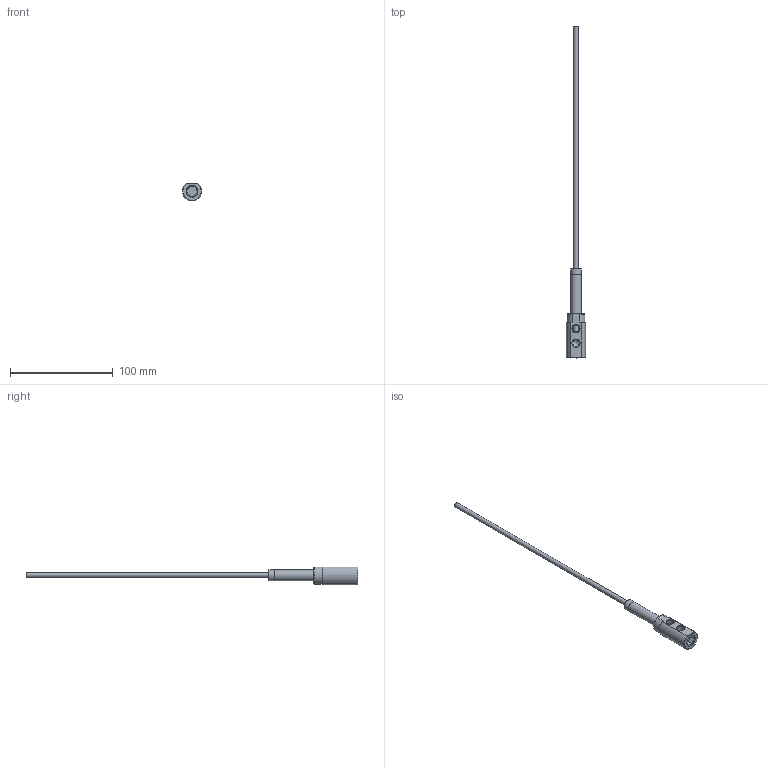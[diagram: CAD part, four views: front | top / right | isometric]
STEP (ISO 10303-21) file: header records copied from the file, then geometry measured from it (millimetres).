
FILE_DESCRIPTION(/* description */ (''),/* implementation_level */ '2;1');
FILE_NAME(/* name */ 'C:/Users/drich/Desktop/E16N-2 v1.step',/* time_stamp */ '2020-01-15T19:30:15-06:00',/* author */ (''),/* organization */ (''),/* preprocessor_version */ 'ST-DEVELOPER v18',/* originating_system */ 'Autodesk Translation Framework v8.12.0.6',/* authorisation */ '');
FILE_SCHEMA (('AUTOMOTIVE_DESIGN { 1 0 10303 214 3 1 1 }'));
Length unit declared in the file: inch
Products named in the file (4): E16N-2; E16H-2; SSPN18-2; HF187T-12
Assembly tree (3 placements, depth 2):
  E16N-2
    E16H-2
    SSPN18-2
    HF187T-12
Bounding box: 18.64 x 322.47 x 17.25 mm (x, y, z)
Volume: 11970 mm3; surface area: 15540.1 mm2
Topology: 3 solids, 3 shells, 52 faces, 132 edges, 92 vertices
Faces by surface type: plane 21, cylinder 15, cone 12, torus 4
Full cylindrical faces by diameter (mm): 4.242 x1, 4.75 x1, 5.474 x1, 6.243 x1, 6.401 x1, 6.697 x2, 6.833 x1, 8.707 x1, 10.262 x2, 10.312 x1, 11.176 x1
Entity records: 1866 total; most frequent: CARTESIAN_POINT 446, DIRECTION 294, ORIENTED_EDGE 262, EDGE_CURVE 131, AXIS2_PLACEMENT_3D 126, VERTEX_POINT 92, EDGE_LOOP 67, CIRCLE 66
